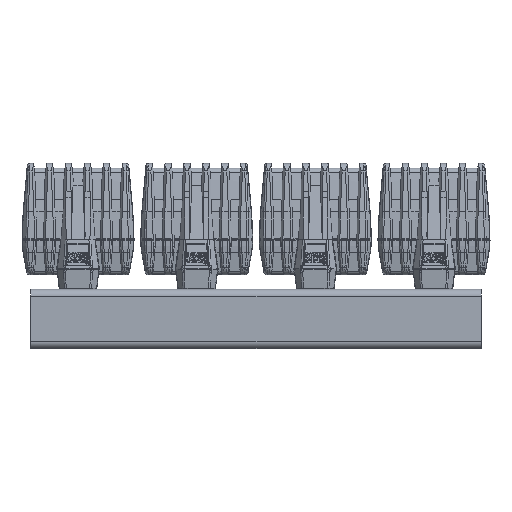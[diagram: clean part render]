
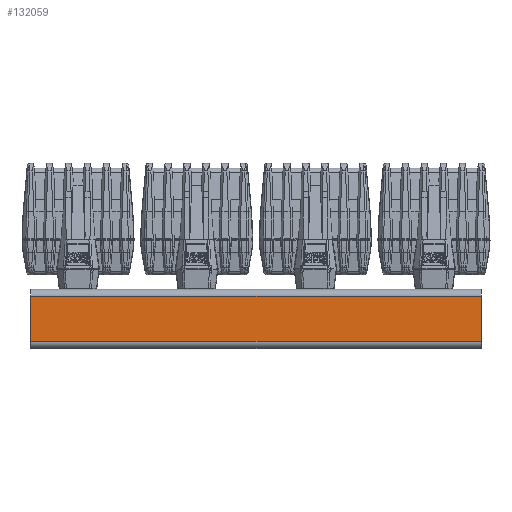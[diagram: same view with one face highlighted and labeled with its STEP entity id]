
A CAD part, top view. The second image highlights one B-rep face of the part: STEP entity #132059.
In plain terms, the highlighted planar face has unit normal (0, 0, 1).
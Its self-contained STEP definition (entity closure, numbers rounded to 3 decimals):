
#10419 = VERTEX_POINT ( 'NONE', #127530 ) ;
#11306 = AXIS2_PLACEMENT_3D ( 'NONE', #105549, #176721, #91201 ) ;
#12233 = DIRECTION ( 'NONE',  ( 0., -1., 0. ) ) ;
#16066 = CARTESIAN_POINT ( 'NONE',  ( -126.154, 27.641, 3.707 ) ) ;
#29233 = VERTEX_POINT ( 'NONE', #16066 ) ;
#36444 = CARTESIAN_POINT ( 'NONE',  ( 63.846, 46.641, 3.707 ) ) ;
#42634 = DIRECTION ( 'NONE',  ( 1., 0., 0. ) ) ;
#48127 = PLANE ( 'NONE',  #11306 ) ;
#53229 = ORIENTED_EDGE ( 'NONE', *, *, #120274, .T. ) ;
#54218 = CARTESIAN_POINT ( 'NONE',  ( 63.846, 24.641, 3.707 ) ) ;
#67923 = CARTESIAN_POINT ( 'NONE',  ( -126.154, 46.641, 3.707 ) ) ;
#71750 = LINE ( 'NONE', #36444, #120789 ) ;
#72871 = VERTEX_POINT ( 'NONE', #107093 ) ;
#84842 = LINE ( 'NONE', #166953, #156361 ) ;
#85425 = VERTEX_POINT ( 'NONE', #67923 ) ;
#91201 = DIRECTION ( 'NONE',  ( -1., 0., 0. ) ) ;
#97186 = VECTOR ( 'NONE', #12233, 1000. ) ;
#98843 = EDGE_LOOP ( 'NONE', ( #149076, #53229, #180027, #106110 ) ) ;
#105549 = CARTESIAN_POINT ( 'NONE',  ( 63.846, 24.641, 3.707 ) ) ;
#106110 = ORIENTED_EDGE ( 'NONE', *, *, #107958, .T. ) ;
#106202 = VECTOR ( 'NONE', #121278, 1000. ) ;
#107093 = CARTESIAN_POINT ( 'NONE',  ( 63.846, 27.641, 3.707 ) ) ;
#107958 = EDGE_CURVE ( 'NONE', #10419, #85425, #71750, .T. ) ;
#120274 = EDGE_CURVE ( 'NONE', #29233, #72871, #84842, .T. ) ;
#120789 = VECTOR ( 'NONE', #180726, 1000. ) ;
#121278 = DIRECTION ( 'NONE',  ( 0., -1., 0. ) ) ;
#127530 = CARTESIAN_POINT ( 'NONE',  ( 63.846, 46.641, 3.707 ) ) ;
#132059 = ADVANCED_FACE ( 'NONE', ( #165023 ), #48127, .F. ) ;
#149076 = ORIENTED_EDGE ( 'NONE', *, *, #182855, .T. ) ;
#156361 = VECTOR ( 'NONE', #42634, 1000. ) ;
#157587 = LINE ( 'NONE', #54218, #97186 ) ;
#157713 = LINE ( 'NONE', #164972, #106202 ) ;
#164972 = CARTESIAN_POINT ( 'NONE',  ( -126.154, 24.641, 3.707 ) ) ;
#165023 = FACE_OUTER_BOUND ( 'NONE', #98843, .T. ) ;
#166953 = CARTESIAN_POINT ( 'NONE',  ( 63.846, 27.641, 3.707 ) ) ;
#169168 = EDGE_CURVE ( 'NONE', #10419, #72871, #157587, .T. ) ;
#176721 = DIRECTION ( 'NONE',  ( 0., 0., -1. ) ) ;
#180027 = ORIENTED_EDGE ( 'NONE', *, *, #169168, .F. ) ;
#180726 = DIRECTION ( 'NONE',  ( -1., 0., 0. ) ) ;
#182855 = EDGE_CURVE ( 'NONE', #85425, #29233, #157713, .T. ) ;
